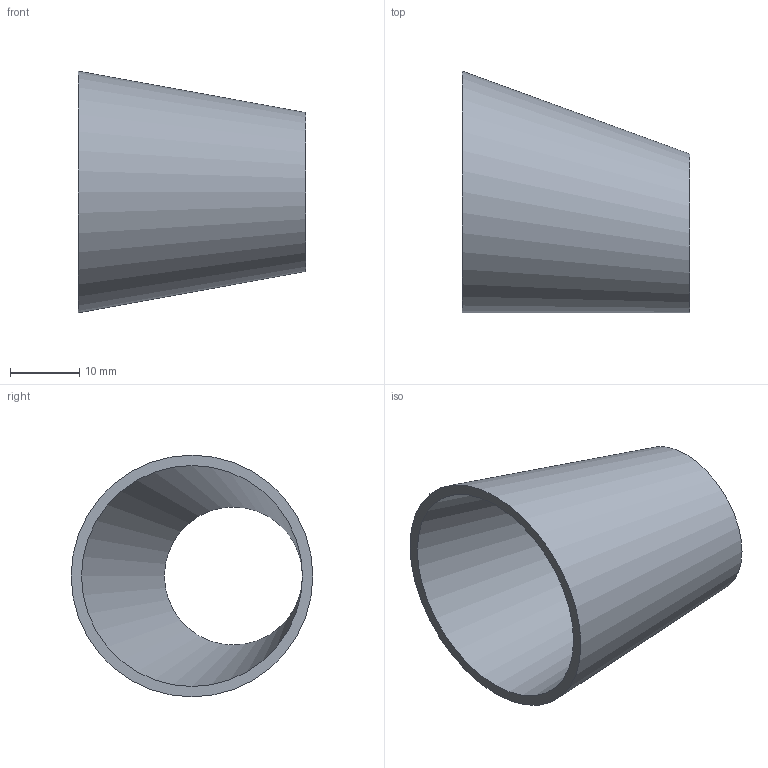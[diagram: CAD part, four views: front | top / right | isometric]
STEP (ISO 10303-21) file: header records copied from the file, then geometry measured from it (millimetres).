
FILE_DESCRIPTION(('FreeCAD Model'),'2;1');
FILE_NAME( '/home/martin/Documents/proyect/accesorios/stp/red-exc_DN32-20.step', '2017-12-31T13:02:35',('Author'),(''), 'Open CASCADE STEP processor 6.8','FreeCAD','Unknown');
FILE_SCHEMA(('AUTOMOTIVE_DESIGN_CC2 { 1 2 10303 214 -1 1 5 4 }'));
Length unit declared in the file: millimetre
Products named in the file (1): red-exc_DN32-20
Bounding box: 33 x 35 x 35 mm (x, y, z)
Volume: 4276.5 mm3; surface area: 6099.3 mm2
Topology: 1 solids, 1 shells, 4 faces, 6 edges, 4 vertices
Faces by surface type: bspline 2, plane 2
Entity records: 247 total; most frequent: CARTESIAN_POINT 87, DIRECTION 26, ORIENTED_EDGE 12, PCURVE 12, DEFINITIONAL_REPRESENTATION 12, CIRCLE 8, LINE 8, VECTOR 8
